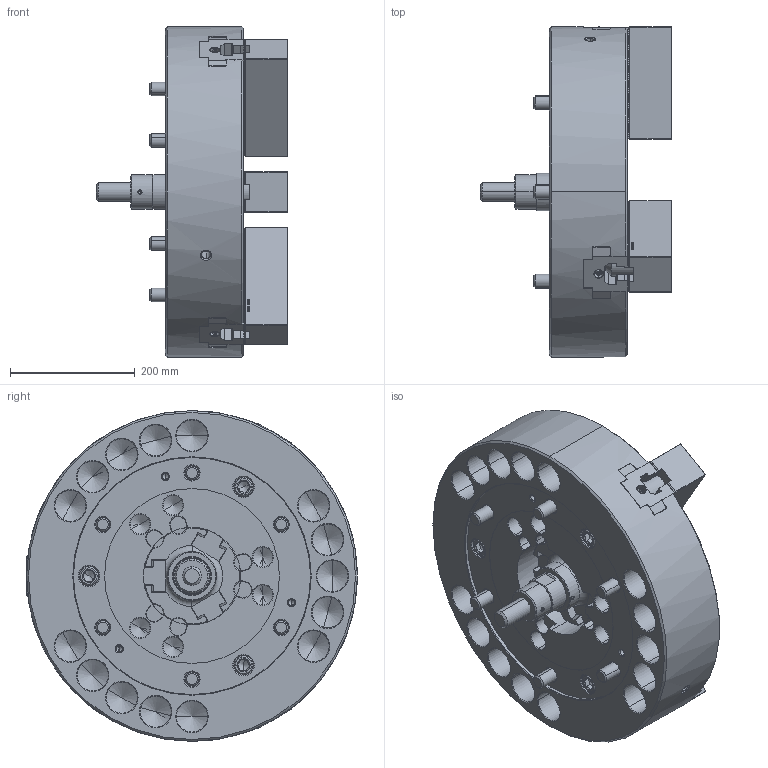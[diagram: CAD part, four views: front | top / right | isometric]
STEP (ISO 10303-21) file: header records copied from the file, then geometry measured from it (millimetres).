
FILE_DESCRIPTION (( 'STEP AP214' ), '1' );
FILE_NAME ('DT1_N-21_OUTSIDE_VIEW_UC.STEP', '2026-03-18T23:57:36', ( '' ), ( '' ), 'SwSTEP 2.0', 'SolidWorks 2022', '' );
FILE_SCHEMA (( 'AUTOMOTIVE_DESIGN' ));
Length unit declared in the file: millimetre
Products named in the file (11): Copy of 61P321208^DT1_N-21; DT1_N-21_COVER^DT1_N-21; DT1_N-21_M6x12^DT1_N-21; DT1_N-21_M20x60^DT1_N-21; DT1_N-21_DRAWSCREW^DT1_N-21; DT1_N-21_TNUT^DT1_N-21; DT1_N-21_DN^DT1_N-21; DT1_N-21_M22x120^DT1_N-21; DT1_N-21_SOFTJAW^DT1_N-21; DT1_N-21_OUTSIDE_VIEW_UC; DT1_N-21_BASE^DT1_N-21
Assembly tree (29 placements, depth 2):
  DT1_N-21_OUTSIDE_VIEW_UC
    DT1_N-21_SOFTJAW^DT1_N-21  x3
    DT1_N-21_TNUT^DT1_N-21  x6
    DT1_N-21_COVER^DT1_N-21
    DT1_N-21_DRAWSCREW^DT1_N-21
    Copy of 61P321208^DT1_N-21
    DT1_N-21_DN^DT1_N-21
    DT1_N-21_BASE^DT1_N-21
    DT1_N-21_M6x12^DT1_N-21  x3
    DT1_N-21_M22x120^DT1_N-21  x6
    DT1_N-21_M20x60^DT1_N-21  x6
Bounding box: 307 x 530 x 530 mm (x, y, z)
Volume: 25818174.7 mm3; surface area: 1641218.8 mm2
Topology: 29 solids, 47 shells, 8180 faces, 23079 edges, 15146 vertices
Faces by surface type: plane 5174, cylinder 1541, bspline 848, cone 537, torus 74, sphere 6
Entity records: 228358 total; most frequent: CARTESIAN_POINT 72637, ORIENTED_EDGE 35282, DIRECTION 27501, EDGE_CURVE 17641, LINE 13257, VECTOR 13257, VERTEX_POINT 11620, AXIS2_PLACEMENT_3D 7122
